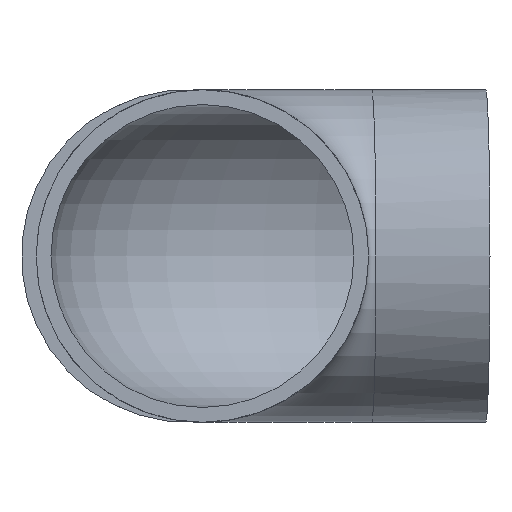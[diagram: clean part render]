
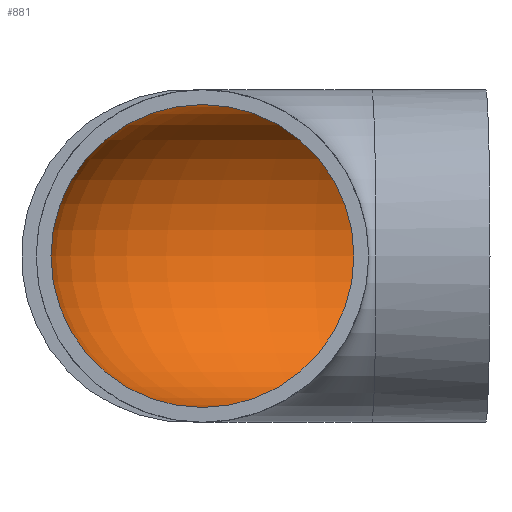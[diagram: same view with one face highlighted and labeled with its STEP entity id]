
A CAD part, front view. The second image highlights one B-rep face of the part: STEP entity #881.
In plain terms, the highlighted toroidal (fillet/blend) face has major radius 70.5 mm and minor radius 61.5 mm.
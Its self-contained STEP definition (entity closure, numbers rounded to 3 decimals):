
#26=FACE_BOUND($,#173,.T.);
#34=TOROIDAL_SURFACE($,#967,70.5,61.5);
#109=FACE_OUTER_BOUND($,#172,.T.);
#172=EDGE_LOOP($,(#753));
#173=EDGE_LOOP($,(#754));
#297=CIRCLE($,#968,61.5);
#298=CIRCLE($,#969,61.5);
#397=VERTEX_POINT($,#3226);
#398=VERTEX_POINT($,#3228);
#519=EDGE_CURVE($,#397,#397,#297,.T.);
#520=EDGE_CURVE($,#398,#398,#298,.T.);
#753=ORIENTED_EDGE($,*,*,#519,.F.);
#754=ORIENTED_EDGE($,*,*,#520,.T.);
#881=ADVANCED_FACE($,(#109,#26),#34,.F.);
#967=AXIS2_PLACEMENT_3D($,#3225,#1138,#1139);
#968=AXIS2_PLACEMENT_3D($,#3227,#1140,#1141);
#969=AXIS2_PLACEMENT_3D($,#3229,#1142,#1143);
#1138=DIRECTION('center_axis',(0.,0.,-1.));
#1139=DIRECTION('ref_axis',(-1.,0.,0.));
#1140=DIRECTION('center_axis',(-1.,-0.026,0.));
#1141=DIRECTION('ref_axis',(0.026,-1.,0.));
#1142=DIRECTION('center_axis',(0.,-1.,0.));
#1143=DIRECTION('ref_axis',(1.,0.,0.));
#3225=CARTESIAN_POINT('Origin',(70.5,46.322,0.));
#3226=CARTESIAN_POINT('',(67.045,178.277,0.));
#3227=CARTESIAN_POINT('Origin',(68.655,116.798,0.));
#3228=CARTESIAN_POINT('',(-61.5,46.322,0.));
#3229=CARTESIAN_POINT('Origin',(0.,46.322,0.));
